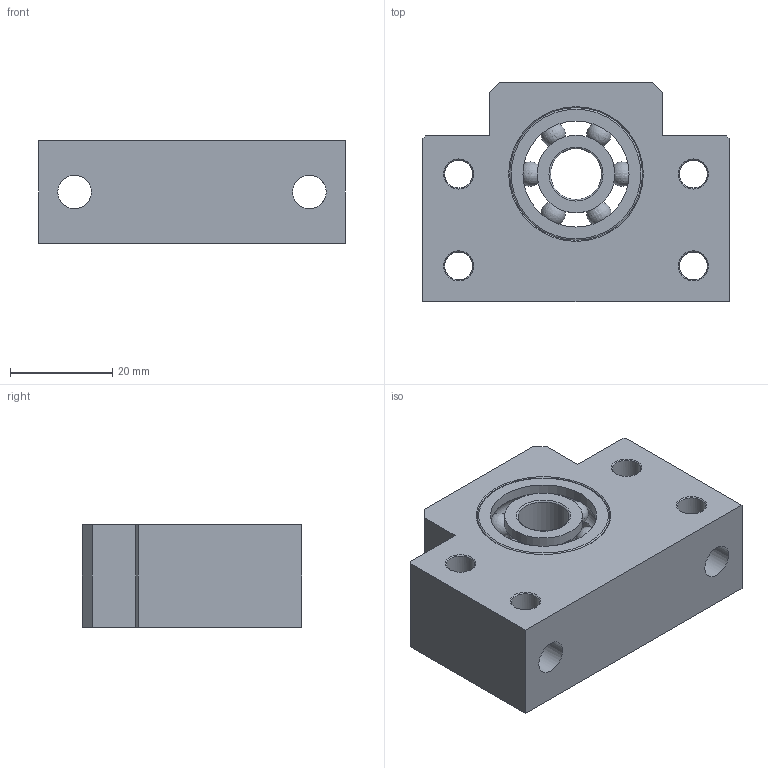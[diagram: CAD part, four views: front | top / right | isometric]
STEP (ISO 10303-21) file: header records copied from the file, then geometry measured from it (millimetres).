
FILE_DESCRIPTION(/* description */ (''),/* implementation_level */ '2;1');
FILE_NAME(/* name */ 'C:\Users\Nick_2\Dropbox\WG Projekte\Kamp und Kötter\Artikel\Lagerset Stehlager (BK-BF)\STEP-Dateien\20160510_Loslager BF12.stp',/* time_stamp */ '2016-05-10T16:28:51+02:00',/* author */ ('Nick_2'),/* organization */ (''),/* preprocessor_version */ 'ST-DEVELOPER v15.6',/* originating_system */ 'Autodesk Inventor 2015',/* authorisation */ '');
FILE_SCHEMA (('AUTOMOTIVE_DESIGN { 1 0 10303 214 3 1 1 }'));
Length unit declared in the file: millimetre
Products named in the file (3): BF12-Grundkörper; DIN 625 T1 - 6000 - 10 x 26 x 8; BF12-Zusammenbau
Assembly tree (2 placements, depth 2):
  BF12-Zusammenbau
    BF12-Grundkörper
    DIN 625 T1 - 6000 - 10 x 26 x 8
Bounding box: 60 x 43 x 20 mm (x, y, z)
Volume: 34089.2 mm3; surface area: 13941.7 mm2
Topology: 9 solids, 9 shells, 73 faces, 180 edges, 115 vertices
Faces by surface type: plane 20, cylinder 19, torus 16, cone 12, sphere 6
Full cylindrical faces by diameter (mm): 5.5 x8, 6.6 x2, 10 x1, 10.8 x2, 15.216 x2, 20.784 x2, 26 x2
Entity records: 2270 total; most frequent: CARTESIAN_POINT 626, DIRECTION 348, ORIENTED_EDGE 268, AXIS2_PLACEMENT_3D 156, EDGE_LOOP 142, EDGE_CURVE 122, VERTEX_POINT 98, CIRCLE 78
